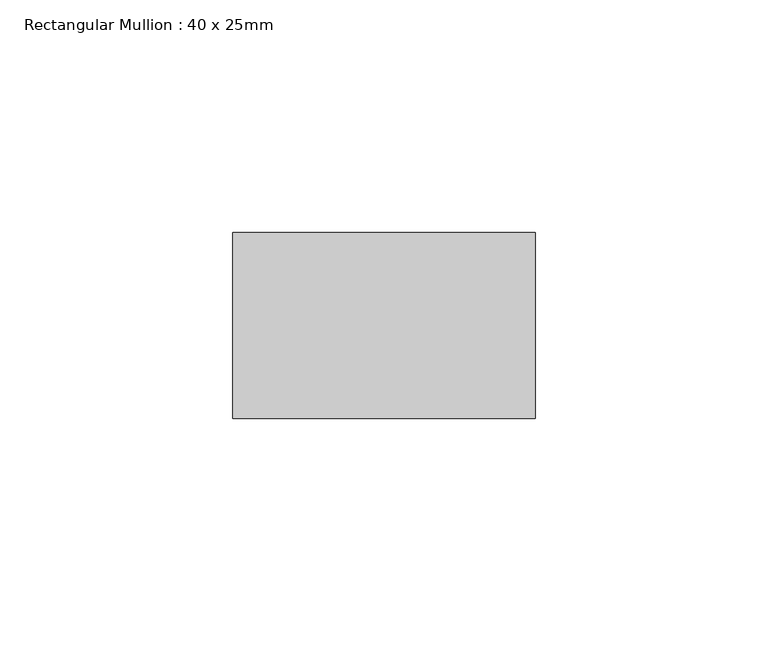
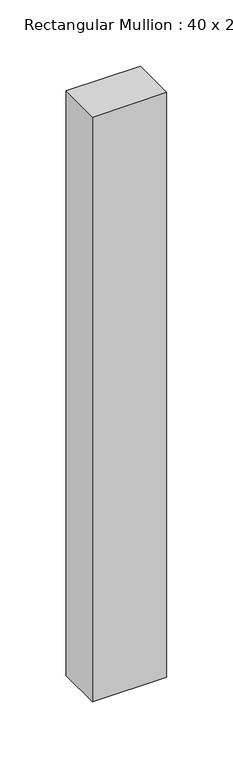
"""IFC4 building model written with IfcOpenShell, lengths in millimetres: member geometry, Rectangular Mullion : 40 x 25mm."""

from ifc_helpers import new_model, si_unit, frame, origin, place, context, project, spatial, polyline, outline, extrude, source, transform, mapped, element, save


def rectangular_mullion_40_x_25mm_0637f1b2(model_context):
    return source(origin(), model_context, "Body", "SweptSolid", [
        extrude(outline(polyline([(0.0, -20.0), (0.0, -60.0), (-65.0, -60.0), (-65.0, -20.0), (0.0, -20.0)])), frame((0.0, 0.0, -540.0), z_axis=(0.0, 0.0, 1.0), x_axis=(1.0, 0.0, 0.0)), (0.0, 0.0, 1.0), 540.0),
    ])


if __name__ == "__main__":
    model = new_model("IFC4")
    model_context = context("Model", 3, world=origin())
    ifc_project = project(units=[si_unit("LENGTHUNIT", "METRE", prefix="MILLI")], contexts=[model_context])
    site = spatial("IfcSite", under=ifc_project)
    building = spatial("IfcBuilding", under=site)
    placement = place(None, origin())
    rectangular_mullion_40_x_25mm_shape = rectangular_mullion_40_x_25mm_0637f1b2(model_context)
    element("IfcMember", 1, ObjectType="Rectangular Mullion : 40 x 25mm", at=placement, inside=building, context=model_context, shape_type="MappedRepresentation", body=[
        mapped(rectangular_mullion_40_x_25mm_shape, transform((0.0, 0.0, 0.0), x_axis=(1.0, 0.0, 0.0), y_axis=(0.0, 1.0, 0.0), z_axis=(0.0, 0.0, 1.0))),
    ])
    save(model, "model.ifc")
